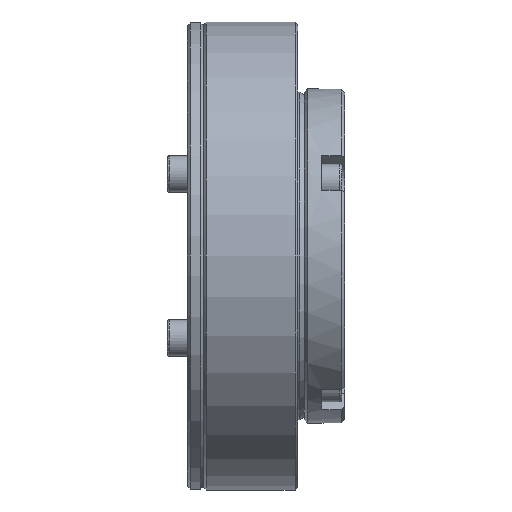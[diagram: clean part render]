
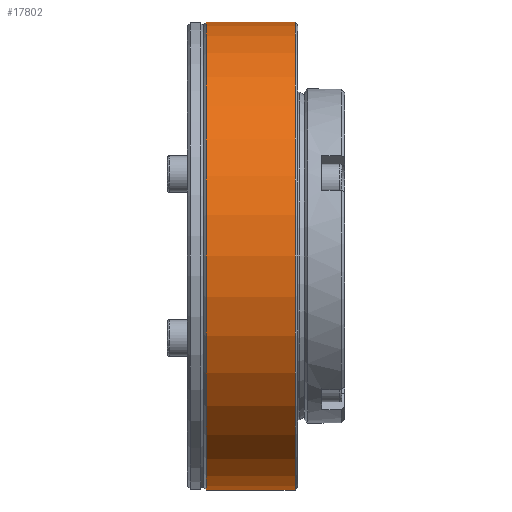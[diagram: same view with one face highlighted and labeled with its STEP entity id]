
A CAD part, front view. The second image highlights one B-rep face of the part: STEP entity #17802.
In plain terms, the highlighted cylindrical face has radius 35 mm (diameter 70 mm), a full revolution.
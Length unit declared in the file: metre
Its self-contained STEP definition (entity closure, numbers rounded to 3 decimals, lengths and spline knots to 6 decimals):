
#523 = ORIENTED_EDGE ( 'NONE', *, *, #7592, .T. ) ;
#1175 = CARTESIAN_POINT ( 'NONE',  ( 0.0028, 0., 0. ) ) ;
#1557 = DIRECTION ( 'NONE',  ( 0., 0., 1. ) ) ;
#1810 = ORIENTED_EDGE ( 'NONE', *, *, #4744, .T. ) ;
#4744 = EDGE_CURVE ( 'NONE', #15374, #15374, #16386, .T. ) ;
#5783 = CYLINDRICAL_SURFACE ( 'NONE', #15934, 0.035 ) ;
#6756 = CARTESIAN_POINT ( 'NONE',  ( 0.0028, 0., 0.035 ) ) ;
#7497 = EDGE_LOOP ( 'NONE', ( #1810 ) ) ;
#7592 = EDGE_CURVE ( 'NONE', #17699, #17699, #18616, .T. ) ;
#8526 = CARTESIAN_POINT ( 'NONE',  ( 0.0161, 0., 0. ) ) ;
#8649 = FACE_OUTER_BOUND ( 'NONE', #9499, .T. ) ;
#8806 = AXIS2_PLACEMENT_3D ( 'NONE', #8526, #14632, #1557 ) ;
#9499 = EDGE_LOOP ( 'NONE', ( #523 ) ) ;
#10163 = DIRECTION ( 'NONE',  ( 0., 0., 1. ) ) ;
#11592 = DIRECTION ( 'NONE',  ( -1., 0., 0. ) ) ;
#12675 = CARTESIAN_POINT ( 'NONE',  ( 0.0161, 0., 0.035 ) ) ;
#12730 = FACE_OUTER_BOUND ( 'NONE', #7497, .T. ) ;
#13734 = AXIS2_PLACEMENT_3D ( 'NONE', #1175, #15671, #14429 ) ;
#14429 = DIRECTION ( 'NONE',  ( 0., 0., 1. ) ) ;
#14632 = DIRECTION ( 'NONE',  ( -1., 0., 0. ) ) ;
#15374 = VERTEX_POINT ( 'NONE', #12675 ) ;
#15671 = DIRECTION ( 'NONE',  ( 1., 0., 0. ) ) ;
#15934 = AXIS2_PLACEMENT_3D ( 'NONE', #17103, #11592, #10163 ) ;
#16386 = CIRCLE ( 'NONE', #8806, 0.035 ) ;
#17103 = CARTESIAN_POINT ( 'NONE',  ( -0.005642, 0., 0. ) ) ;
#17699 = VERTEX_POINT ( 'NONE', #6756 ) ;
#17802 = ADVANCED_FACE ( 'NONE', ( #12730, #8649 ), #5783, .T. ) ;
#18616 = CIRCLE ( 'NONE', #13734, 0.035 ) ;
